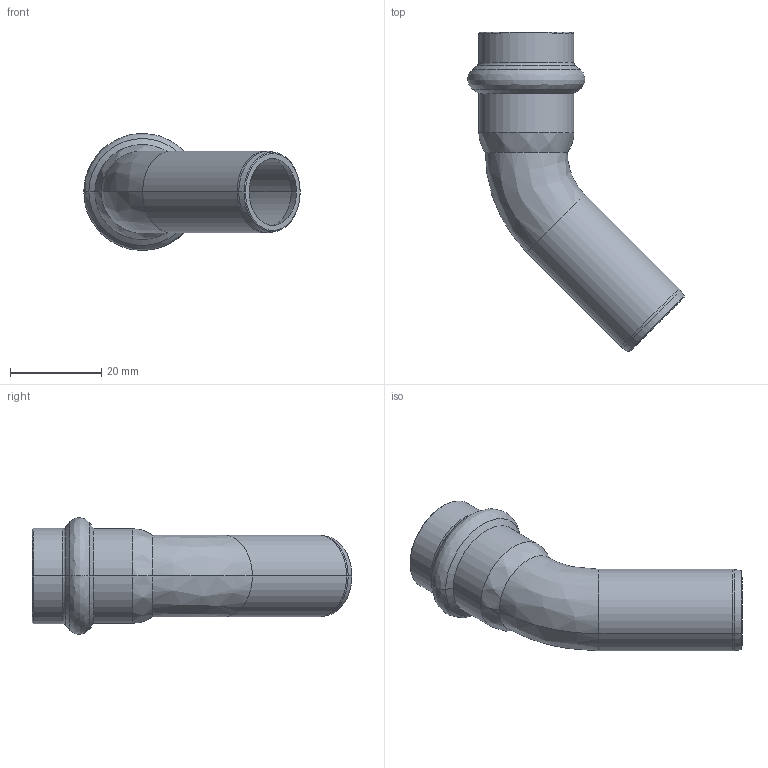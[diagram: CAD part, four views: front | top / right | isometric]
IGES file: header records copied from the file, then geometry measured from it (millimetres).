
Start section: Elysium IGES Interface
Global section: file name: C:\3d modellen sudo\C-Pr VP\SP8040V\8040VW18.igs; native system: CoCreate Modeling 17.00A  17-Jun-2010; preprocessor: CoCreate IGES_3D V2.2; author: Unknown; organization: Unknown; date: 20130129.144024; units: millimetre
Bounding box: 47.51 x 70.21 x 25.68 mm (x, y, z)
Volume: 6226.4 mm3; surface area: 8818.8 mm2
Topology: 1 solids, 1 shells, 52 faces, 104 edges, 56 vertices
Faces by surface type: bspline 52
